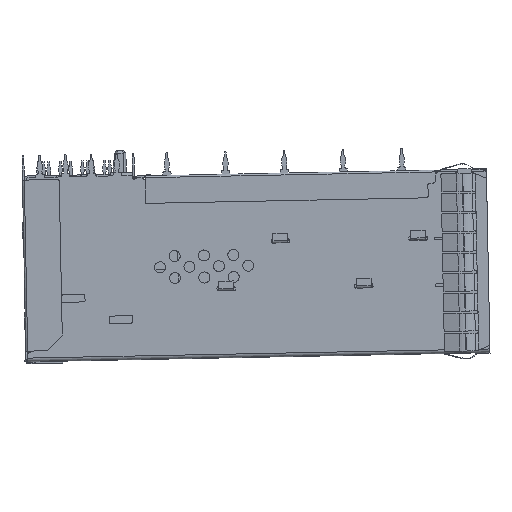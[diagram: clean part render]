
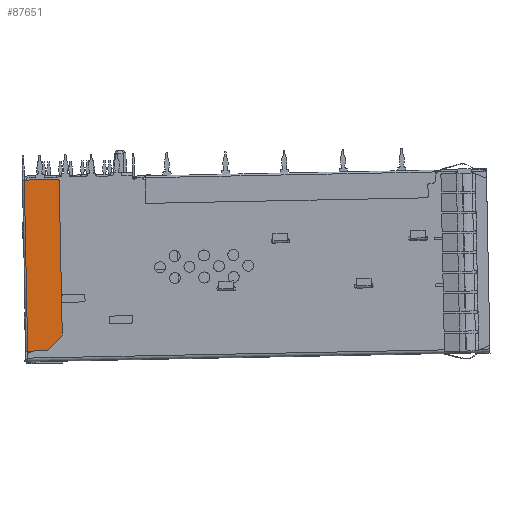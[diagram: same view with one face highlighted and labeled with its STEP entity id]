
A CAD part, left-side view. The second image highlights one B-rep face of the part: STEP entity #87651.
In plain terms, the highlighted planar face has unit normal (-1, 0, 0).
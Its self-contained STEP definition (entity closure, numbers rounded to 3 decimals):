
#4578=DIRECTION('',(0.,1.,-0.02));
#4579=VECTOR('',#4578,4.5);
#4580=CARTESIAN_POINT('',(43.2,0.725,23.326));
#4581=LINE('',#4580,#4579);
#26190=DIRECTION('',(0.,-0.02,
-1.));
#26191=VECTOR('',#26190,23.3);
#26192=CARTESIAN_POINT('',(43.2,5.224,23.237));
#26193=LINE('',#26192,#26191);
#26198=CARTESIAN_POINT('',(43.2,0.72,23.076));
#26199=DIRECTION('',(1.,0.,0.));
#26200=DIRECTION('',(0.,0.02,1.));
#26201=AXIS2_PLACEMENT_3D('',#26198,#26199,#26200);
#26203=DIRECTION('',(0.,-0.02,-1.));
#26204=VECTOR('',#26203,20.946);
#26205=CARTESIAN_POINT('',(43.2,0.47,23.081));
#26206=LINE('',#26205,#26204);
#26207=CARTESIAN_POINT('',(43.2,0.306,2.134));
#26208=DIRECTION('',(1.,0.,0.));
#26209=DIRECTION('',(0.,-1.,0.02));
#26210=AXIS2_PLACEMENT_3D('',#26207,#26208,#26209);
#26212=DIRECTION('',(0.,0.693,-0.721));
#26213=VECTOR('',#26212,2.725);
#26214=CARTESIAN_POINT('',(43.2,0.125,1.961));
#26215=LINE('',#26214,#26213);
#26295=DIRECTION('',(0.,-1.,0.02));
#26296=VECTOR('',#26295,2.75);
#26297=CARTESIAN_POINT('',(43.2,4.763,
-0.058));
#26298=LINE('',#26297,#26296);
#42779=CARTESIAN_POINT('',(43.2,0.725,23.326));
#42780=VERTEX_POINT('',#42779);
#42781=CARTESIAN_POINT('',(43.2,5.224,23.237));
#42782=VERTEX_POINT('',#42781);
#49081=CARTESIAN_POINT('',(43.2,4.763,
-0.058));
#49082=VERTEX_POINT('',#49081);
#49083=CARTESIAN_POINT('',(43.2,0.47,23.081));
#49084=VERTEX_POINT('',#49083);
#49085=CARTESIAN_POINT('',(43.2,0.056,2.139));
#49086=VERTEX_POINT('',#49085);
#49087=CARTESIAN_POINT('',(43.2,0.125,1.961));
#49088=VERTEX_POINT('',#49087);
#49089=CARTESIAN_POINT('',(43.2,2.014,-0.004));
#49090=VERTEX_POINT('',#49089);
#87632=CARTESIAN_POINT('',(43.2,2.619,11.636));
#87633=DIRECTION('',(1.,0.,0.));
#87634=DIRECTION('',(0.,-1.,0.02));
#87635=AXIS2_PLACEMENT_3D('',#87632,#87633,#87634);
#87636=PLANE('',#87635);
#87637=ORIENTED_EDGE('',*,*,#87624,.F.);
#87638=ORIENTED_EDGE('',*,*,#57805,.F.);
#87640=ORIENTED_EDGE('',*,*,#87639,.T.);
#87642=ORIENTED_EDGE('',*,*,#87641,.T.);
#87644=ORIENTED_EDGE('',*,*,#87643,.T.);
#87646=ORIENTED_EDGE('',*,*,#87645,.T.);
#87648=ORIENTED_EDGE('',*,*,#87647,.F.);
#87649=EDGE_LOOP('',(#87637,#87638,#87640,#87642,#87644,#87646,#87648));
#87650=FACE_OUTER_BOUND('',#87649,.F.);
#26202=CIRCLE('',#26201,0.25);
#26211=CIRCLE('',#26210,0.25);
#57805=EDGE_CURVE('',#42780,#42782,#4581,.T.);
#87624=EDGE_CURVE('',#42782,#49082,#26193,.T.);
#87639=EDGE_CURVE('',#42780,#49084,#26202,.T.);
#87641=EDGE_CURVE('',#49084,#49086,#26206,.T.);
#87643=EDGE_CURVE('',#49086,#49088,#26211,.T.);
#87645=EDGE_CURVE('',#49088,#49090,#26215,.T.);
#87647=EDGE_CURVE('',#49082,#49090,#26298,.T.);
#87651=ADVANCED_FACE('',(#87650),#87636,.F.);
